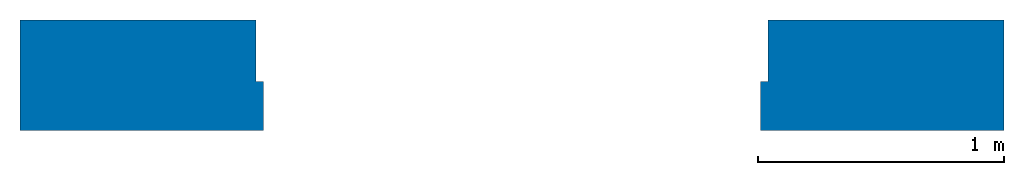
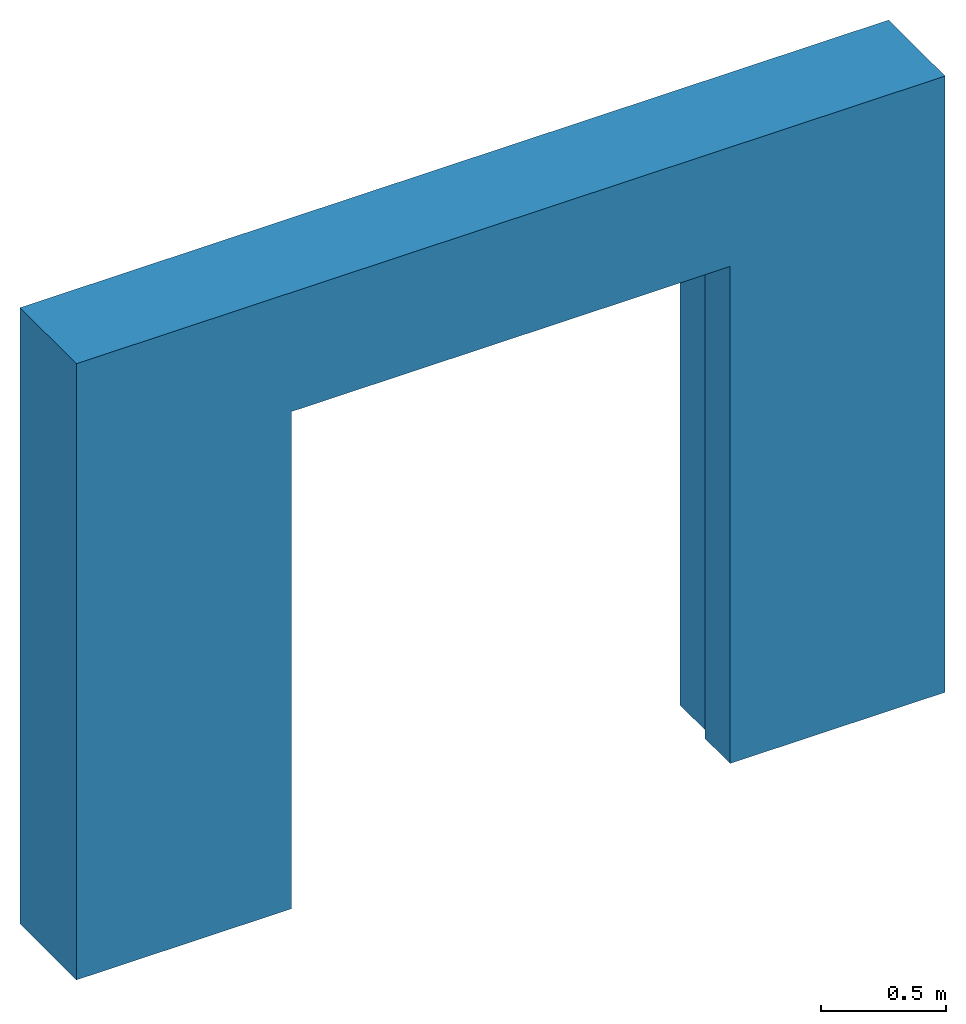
# One storey: 1 wall, 1 opening.
"""IFC4 building model written with IfcOpenShell, lengths in metres."""

from ifc_helpers import new_model, entity, si_unit, converted_unit, derived_unit, frame, frame_2d, origin, origin_with_axes, place, context, subcontext, project, spatial, polyline, rectangle, outline, extrude, material, layer, layer_set, layer_usage, element, save


model = new_model("IFC4")

# Units and contexts
model_context = context("Model", 3, precision=1e-05, world=origin())
body_context = subcontext(model_context, "Body", "Model", "MODEL_VIEW")
ifc_project = project(units=[si_unit("LENGTHUNIT", "METRE"), si_unit("AREAUNIT", "SQUARE_METRE"), si_unit("VOLUMEUNIT", "CUBIC_METRE"), si_unit("MASSUNIT", "GRAM", prefix="KILO"), converted_unit("PLANEANGLEUNIT", "DEGREE", entity("IfcPlaneAngleMeasure", 0.0174532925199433), si_unit("PLANEANGLEUNIT", "RADIAN"), dimensions=[0, 0, 0, 0, 0, 0, 0]), derived_unit("THERMALTRANSMITTANCEUNIT", [(si_unit("POWERUNIT", "WATT"), 1), (si_unit("THERMODYNAMICTEMPERATUREUNIT", "KELVIN"), -1), (si_unit("LENGTHUNIT", "METRE"), -2)]), derived_unit("VOLUMETRICFLOWRATEUNIT", [(si_unit("LENGTHUNIT", "METRE"), 3), (converted_unit("TIMEUNIT", "hour", entity("IfcTimeMeasure", 3600.0), si_unit("TIMEUNIT", "SECOND"), dimensions=[0, 0, 1, 0, 0, 0, 0]), -1), (si_unit("LENGTHUNIT", "METRE"), -1)])], contexts=[model_context])

# Site, building, storey
site_placement = place(None, origin())
site = spatial("IfcSite", under=ifc_project, at=site_placement, Name="Liegenschaft", CompositionType="ELEMENT")
building_placement = place(site_placement, origin())
building = spatial("IfcBuilding", under=site, at=building_placement, Name="Gebäude", CompositionType="ELEMENT")
storey_placement = place(building_placement, origin())
storey = spatial("IfcBuildingStorey", under=building, at=storey_placement, Name="Geschoss 02", CompositionType="ELEMENT", Elevation=0.0)

# Wall, opening
ifc_material_1 = material(Name="C20/25")
ifc_layer_1 = layer(ifc_material_1, 0.25)
ifc_material_2 = material()
ifc_layer_2 = layer(ifc_material_2, 0.200000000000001)
ifc_layer_set = layer_set([ifc_layer_1, ifc_layer_2])
ifc_layer_usage = layer_usage(ifc_layer_set, "AXIS2", "POSITIVE", -0.450000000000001)
wall_placement = place(storey_placement, frame((104.1, 0.0500000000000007, 0.3), z_axis=(0.0, 0.0, 1.0), x_axis=(-1.0, 1.13686837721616e-16, 0.0)))
wall = element("IfcWall", 1, at=wall_placement, inside=storey, material=ifc_layer_usage, Name="WA_01", context=body_context, shape_type="SweptSolid", body=[
    extrude(rectangle(XDim=4.0, YDim=0.450000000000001, at=frame_2d((2.0, 0.225000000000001), x_axis=(1.0, 0.0))), origin_with_axes(), (0.0, 0.0, 1.0), 3.0),
])
opening_placement = place(wall_placement, frame((0.96, 0.0, 0.0), z_axis=(0.0, 1.0, 0.0), x_axis=(0.0, 0.0, 1.0)))
element("IfcOpeningElement", 2, at=opening_placement, cuts=wall, Name="Türöffnung", ObjectType="Opening", context=body_context, shape_type="SweptSolid", body=[
    extrude(outline(polyline([(0.0, 2.08), (2.45, 2.08), (2.45, 0.0), (0.0, 0.0), (0.0, 2.08)])), origin_with_axes(), (0.0, 0.0, 1.0), 0.25),
    extrude(outline(polyline([(0.0, 2.02), (2.42, 2.02), (2.42, 0.0), (0.0, 0.0), (0.0, 2.02)])), frame((0.0, 0.03, 0.25), z_axis=(0.0, 0.0, 1.0), x_axis=(1.0, 0.0, 0.0)), (0.0, 0.0, 1.0), 0.200000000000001),
])

save(model, "model.ifc")
